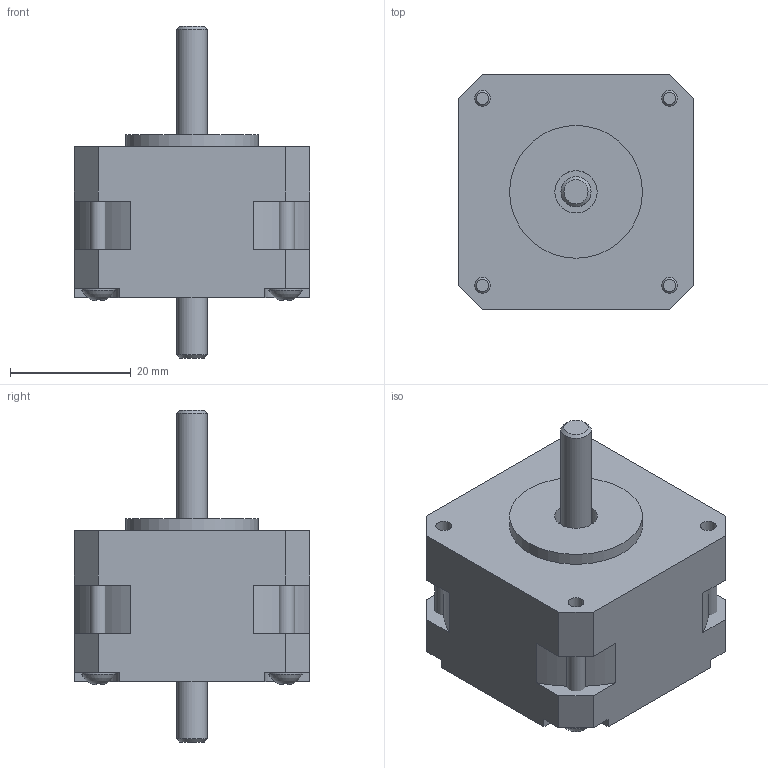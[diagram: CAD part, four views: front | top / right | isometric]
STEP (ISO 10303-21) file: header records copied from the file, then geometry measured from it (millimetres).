
FILE_DESCRIPTION(('STEP AP214'), '1');
FILE_NAME('Øàãîâûé äâèãàòåëü - PL39HD26-D5', '', ('UNSPECIFIED'), ('UNSPECIFIED'), 'ASCON STEP Converter 1.3', 'ASCON Math Kernel', '');
FILE_SCHEMA(('AUTOMOTIVE_DESIGN { 1 0 10303 214 3 1 1}'));
Length unit declared in the file: millimetre
Products named in the file (5): Øàãîâûé äâèãàòåëü
Assembly tree (4 placements, depth 2):
  Øàãîâûé äâèãàòåëü
    (unnamed)
    (unnamed)
    (unnamed)
    (unnamed)
Bounding box: 39 x 39 x 55 mm (x, y, z)
Volume: 37507.7 mm3; surface area: 8996.4 mm2
Topology: 5 solids, 5 shells, 170 faces, 461 edges, 308 vertices
Faces by surface type: plane 99, bspline 32, cylinder 29, cone 6, sphere 4
Full cylindrical faces by diameter (mm): 2.621 x4, 3 x4, 5 x2, 5.5 x4, 7 x2, 22 x1
Entity records: 7212 total; most frequent: CARTESIAN_POINT 1331, ORIENTED_EDGE 864, DIRECTION 814, EDGE_CURVE 432, VERTEX_POINT 304, LINE 272, VECTOR 272, AXIS2_PLACEMENT_3D 271
